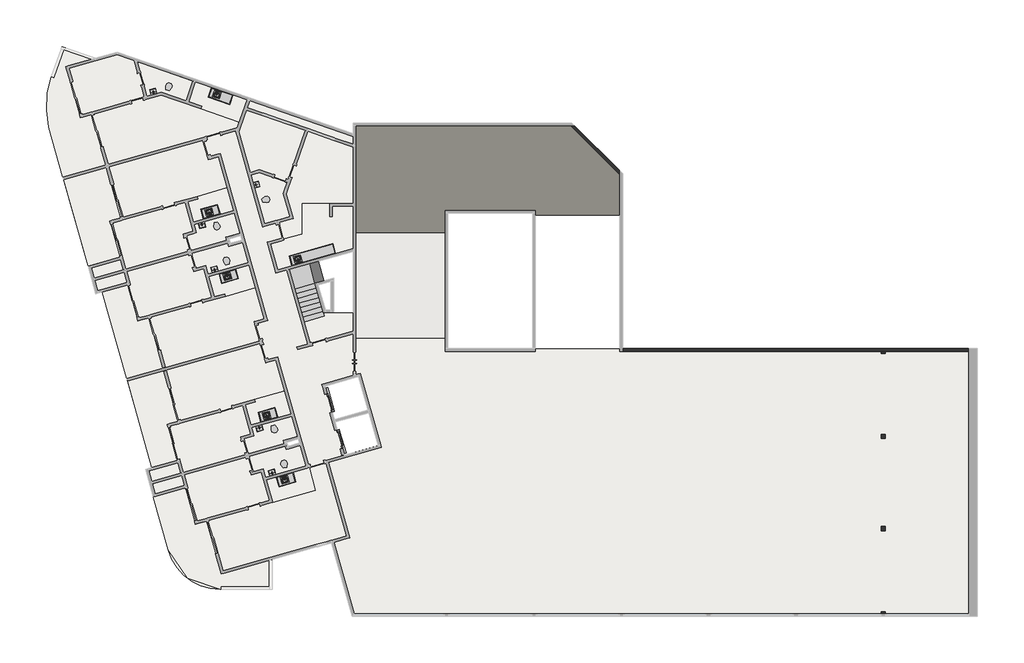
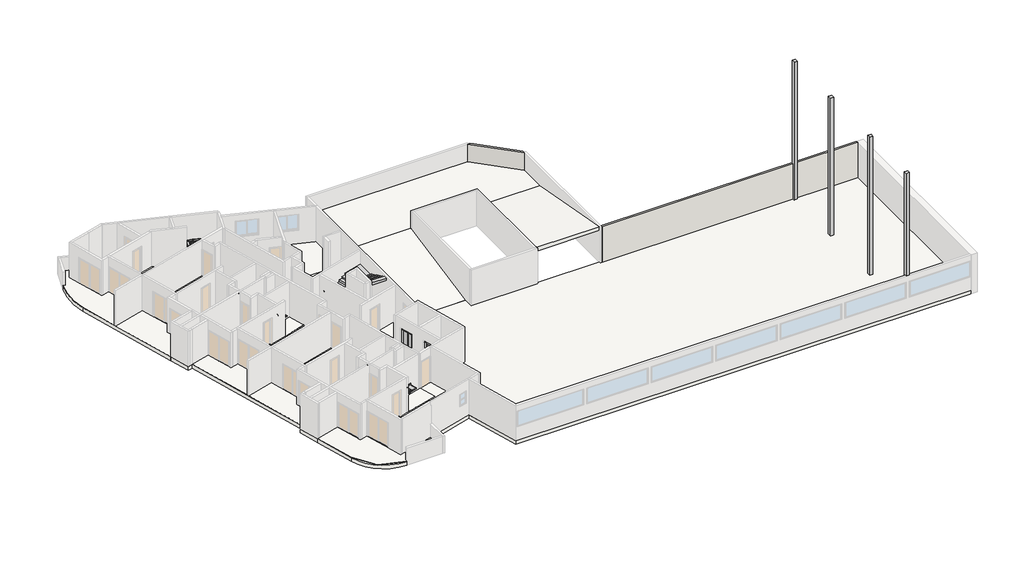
# One storey, part 4 of 4: 19 slabs, 18 flow terminals, 8 proxies, 4 columns, 2 walls, 1 stair flight.
"""IFC4 building model written with IfcOpenShell, lengths in millimetres."""

from ifc_helpers import new_model, si_unit, point, frame, frame_2d, origin, place, context, project, spatial, polyline, circle_curve, trimmed, segment, composite_curve, outline, extrude, faceted_brep, transform, mapped, element, save
from components import specialty_equipment_6c35da8b, specialty_equipment_77dfa124, rf_bancada_cozinha_rf_bancada_cozinha_340fef9f, rf_bancada_cozinha_rf_bancada_cozinha_cfb88ba1, rf_bancada_cozinha_rf_bancada_cozinha_2f873929, rf_bancada_cozinha_rf_bancada_cozinha_798ceddf, flow_terminal_cab7bae2, flow_terminal_3fb7dc42, flow_terminal_e42b9071, flow_terminal_c6e042c4, ap_01_creme_cr37_13e02e03, ap_01_creme_cr37_5ce6e54d

model = new_model("IFC4")

# Units and contexts
model_context = context("Model", 3, world=origin())
ifc_project = project(units=[si_unit("LENGTHUNIT", "METRE", prefix="MILLI")], contexts=[model_context])

# Site, building, storey
site = spatial("IfcSite", under=ifc_project)
building = spatial("IfcBuilding", under=site)
storey = spatial("IfcBuildingStorey", under=building, Name="Garagem 4", Elevation=39150.0)

# Proxies
placement = place(None, origin())
specialty_equipment_shape = specialty_equipment_6c35da8b(model_context)
element("IfcBuildingElementProxy", 1, Name="Porta do elevador : Porta do elevador", ObjectType="Porta do elevador : Porta do elevador", at=placement, inside=storey, context=model_context, shape_type="MappedRepresentation", body=[
    mapped(specialty_equipment_shape, transform((-76594.4337486, 15747.4543727, 39150.0), x_axis=(0.27176796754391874, -0.9623628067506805, 0.0), y_axis=(0.9623628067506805, 0.27176796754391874, 0.0), z_axis=(0.0, 0.0, 1.0))),
])
specialty_equipment_2_shape = specialty_equipment_77dfa124(model_context)
element("IfcBuildingElementProxy", 2, Name="Porta do elevador : Porta do elevador", ObjectType="Porta do elevador : Porta do elevador", at=placement, inside=storey, context=model_context, shape_type="MappedRepresentation", body=[
    mapped(specialty_equipment_2_shape, transform((-75942.1906265, 13437.7836365, 39150.0), x_axis=(-0.27176796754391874, 0.9623628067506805, 0.0), y_axis=(-0.9623628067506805, -0.27176796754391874, 0.0), z_axis=(0.0, 0.0, 1.0))),
])
rf_bancada_cozinha_rf_bancada_cozinha_shape = rf_bancada_cozinha_rf_bancada_cozinha_340fef9f(model_context)
element("IfcBuildingElementProxy", 3, Name="RF_Bancada Cozinha : RF_Bancada Cozinha", ObjectType="RF_Bancada Cozinha : RF_Bancada Cozinha", at=placement, inside=storey, context=model_context, shape_type="MappedRepresentation", body=[
    mapped(rf_bancada_cozinha_rf_bancada_cozinha_shape, transform((-82760.548019, 26451.5820971, 39900.0), x_axis=(-0.9623628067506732, -0.27176796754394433, 0.0), y_axis=(0.27176796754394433, -0.9623628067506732, 0.0), z_axis=(0.0, 0.0, 1.0))),
])
element("IfcBuildingElementProxy", 4, Name="RF_Bancada Cozinha : RF_Bancada Cozinha", ObjectType="RF_Bancada Cozinha : RF_Bancada Cozinha", at=placement, inside=storey, context=model_context, shape_type="MappedRepresentation", body=[
    mapped(rf_bancada_cozinha_rf_bancada_cozinha_shape, transform((-79472.1556117, 14806.9921354, 39900.0), x_axis=(-0.9623628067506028, -0.2717679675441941, 0.0), y_axis=(0.2717679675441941, -0.9623628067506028, 0.0), z_axis=(0.0, 0.0, 1.0))),
])
rf_bancada_cozinha_rf_bancada_cozinha_2_shape = rf_bancada_cozinha_rf_bancada_cozinha_cfb88ba1(model_context)
element("IfcBuildingElementProxy", 5, Name="RF_Bancada Cozinha : RF_Bancada Cozinha", ObjectType="RF_Bancada Cozinha : RF_Bancada Cozinha", at=placement, inside=storey, context=model_context, shape_type="MappedRepresentation", body=[
    mapped(rf_bancada_cozinha_rf_bancada_cozinha_2_shape, transform((-81877.3021245, 23323.9029751, 39900.0), x_axis=(-0.9623628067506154, -0.27176796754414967, 0.0), y_axis=(0.27176796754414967, -0.9623628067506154, 0.0), z_axis=(0.0, 0.0, 1.0))),
])
element("IfcBuildingElementProxy", 6, Name="RF_Bancada Cozinha : RF_Bancada Cozinha", ObjectType="RF_Bancada Cozinha : RF_Bancada Cozinha", at=placement, inside=storey, context=model_context, shape_type="MappedRepresentation", body=[
    mapped(rf_bancada_cozinha_rf_bancada_cozinha_2_shape, transform((-78588.9097172, 11679.3130134, 39900.0), x_axis=(-0.9623628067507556, -0.27176796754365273, 0.0), y_axis=(0.27176796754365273, -0.9623628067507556, 0.0), z_axis=(0.0, 0.0, 1.0))),
])
rf_bancada_cozinha_rf_bancada_cozinha_3_shape = rf_bancada_cozinha_rf_bancada_cozinha_2f873929(model_context)
element("IfcBuildingElementProxy", 7, Name="RF_Bancada Cozinha : RF_Bancada Cozinha", ObjectType="RF_Bancada Cozinha : RF_Bancada Cozinha", at=placement, inside=storey, context=model_context, shape_type="MappedRepresentation", body=[
    mapped(rf_bancada_cozinha_rf_bancada_cozinha_3_shape, transform((-82030.0326121, 33293.9830661, 39900.0), x_axis=(-0.9449109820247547, 0.32732741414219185, 0.0), y_axis=(-0.32732741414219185, -0.9449109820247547, 0.0), z_axis=(0.0, 0.0, 1.0))),
])
rf_bancada_cozinha_rf_bancada_cozinha_4_shape = rf_bancada_cozinha_rf_bancada_cozinha_798ceddf(model_context)
element("IfcBuildingElementProxy", 8, Name="RF_Bancada Cozinha : RF_Bancada Cozinha", ObjectType="RF_Bancada Cozinha : RF_Bancada Cozinha", at=placement, inside=storey, context=model_context, shape_type="MappedRepresentation", body=[
    mapped(rf_bancada_cozinha_rf_bancada_cozinha_4_shape, transform((-76157.6622331, 24197.9763092, 39900.0), x_axis=(-0.9623628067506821, -0.27176796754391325, 0.0), y_axis=(0.27176796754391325, -0.9623628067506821, 0.0), z_axis=(0.0, 0.0, 1.0))),
])

# Columns
element("IfcColumn", 9, ObjectType="M_Concrete-Rectangular-Column : 0.25m", at=placement, inside=storey, context=model_context, shape_type="SweptSolid", body=[
    extrude(outline(polyline([(-44675.8696428, 3676.0495751), (-44675.8696428, 3426.0495751), (-44925.8696428, 3426.0495751), (-44925.8696428, 3676.0495751), (-44675.8696428, 3676.0495751)])), frame((0.0, 0.0, 39150.0), z_axis=(0.0, 0.0, 1.0), x_axis=(1.0, 0.0, 0.0)), (0.0, 0.0, 1.0), 11300.0),
])
element("IfcColumn", 10, ObjectType="M_Concrete-Rectangular-Column : 0.25m", at=placement, inside=storey, context=model_context, shape_type="SweptSolid", body=[
    extrude(outline(polyline([(-44675.8696428, 18723.8506069), (-44675.8696428, 18473.8506069), (-44925.8696428, 18473.8506069), (-44925.8696428, 18723.8506069), (-44675.8696428, 18723.8506069)])), frame((0.0, 0.0, 39150.0), z_axis=(0.0, 0.0, 1.0), x_axis=(1.0, 0.0, 0.0)), (0.0, 0.0, 1.0), 11300.0),
])
element("IfcColumn", 11, ObjectType="M_Concrete-Rectangular-Column : 0.25m", at=placement, inside=storey, context=model_context, shape_type="SweptSolid", body=[
    extrude(outline(polyline([(-44675.8696428, 13852.5140353), (-44675.8696428, 13602.5140353), (-44925.8696428, 13602.5140353), (-44925.8696428, 13852.5140353), (-44675.8696428, 13852.5140353)])), frame((0.0, 0.0, 39150.0), z_axis=(0.0, 0.0, 1.0), x_axis=(1.0, 0.0, 0.0)), (0.0, 0.0, 1.0), 11300.0),
])
element("IfcColumn", 12, ObjectType="M_Concrete-Rectangular-Column : 0.25m", at=placement, inside=storey, context=model_context, shape_type="SweptSolid", body=[
    extrude(outline(polyline([(-44675.8696428, 8561.0495751), (-44675.8696428, 8311.0495751), (-44925.8696428, 8311.0495751), (-44925.8696428, 8561.0495751), (-44675.8696428, 8561.0495751)])), frame((0.0, 0.0, 39150.0), z_axis=(0.0, 0.0, 1.0), x_axis=(1.0, 0.0, 0.0)), (0.0, 0.0, 1.0), 11300.0),
])

# Flow terminals
flow_terminal_shape = flow_terminal_cab7bae2(model_context)
element("IfcFlowTerminal", 13, ObjectType="RF_Pias : Pia da Bancada", at=placement, inside=storey, context=model_context, shape_type="MappedRepresentation", body=[
    mapped(flow_terminal_shape, transform((-83380.5102831, 26570.4992214, 39002.9), x_axis=(-0.9623628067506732, -0.27176796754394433, 0.0), y_axis=(0.27176796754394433, -0.9623628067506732, 0.0), z_axis=(0.0, 0.0, 1.0))),
])
element("IfcFlowTerminal", 14, ObjectType="RF_Pias : Pia da Bancada", at=placement, inside=storey, context=model_context, shape_type="MappedRepresentation", body=[
    mapped(flow_terminal_shape, transform((-80092.1178758, 14925.9092597, 39002.9), x_axis=(-0.9623628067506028, -0.2717679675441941, 0.0), y_axis=(0.2717679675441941, -0.9623628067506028, 0.0), z_axis=(0.0, 0.0, 1.0))),
])
element("IfcFlowTerminal", 15, ObjectType="RF_Pias : Pia da Bancada", at=placement, inside=storey, context=model_context, shape_type="MappedRepresentation", body=[
    mapped(flow_terminal_shape, transform((-78306.8185143, 23885.0542694, 39002.9), x_axis=(-0.9623628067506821, -0.27176796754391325, 0.0), y_axis=(0.27176796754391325, -0.9623628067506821, 0.0), z_axis=(0.0, 0.0, 1.0))),
])
flow_terminal_2_shape = flow_terminal_3fb7dc42(model_context)
element("IfcFlowTerminal", 16, ObjectType="Deca_Cuba de Apoio Retangular_L7300 : L.7300.17_Branco Gelo GE17", at=placement, inside=storey, context=model_context, shape_type="MappedRepresentation", body=[
    mapped(flow_terminal_2_shape, transform((-83090.0822283, 23308.7374016, 39900.0), x_axis=(-0.9623628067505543, -0.2717679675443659, 0.0), y_axis=(0.2717679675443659, -0.9623628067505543, 0.0), z_axis=(0.0, 0.0, 1.0))),
])
element("IfcFlowTerminal", 17, ObjectType="Deca_Cuba de Apoio Retangular_L7300 : L.7300.17_Branco Gelo GE17", at=placement, inside=storey, context=model_context, shape_type="MappedRepresentation", body=[
    mapped(flow_terminal_2_shape, transform((-79801.689821, 11664.1474399, 39900.0), x_axis=(-0.9623628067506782, -0.2717679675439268, 0.0), y_axis=(0.2717679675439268, -0.9623628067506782, 0.0), z_axis=(0.0, 0.0, 1.0))),
])
element("IfcFlowTerminal", 18, ObjectType="Deca_Cuba de Apoio Retangular_L7300 : L.7300.17_Branco Gelo GE17", at=placement, inside=storey, context=model_context, shape_type="MappedRepresentation", body=[
    mapped(flow_terminal_2_shape, transform((-80677.0991462, 28154.8020678, 39900.0), x_axis=(-0.2717679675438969, 0.9623628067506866, 0.0), y_axis=(-0.9623628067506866, -0.2717679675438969, 0.0), z_axis=(0.0, 0.0, 1.0))),
])
element("IfcFlowTerminal", 19, ObjectType="Deca_Cuba de Apoio Retangular_L7300 : L.7300.17_Branco Gelo GE17", at=placement, inside=storey, context=model_context, shape_type="MappedRepresentation", body=[
    mapped(flow_terminal_2_shape, transform((-86597.4204814, 33488.7004496, 39900.0), x_axis=(-0.9623628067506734, -0.27176796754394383, 0.0), y_axis=(0.27176796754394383, -0.9623628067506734, 0.0), z_axis=(0.0, 0.0, 1.0))),
])
flow_terminal_3_shape = flow_terminal_e42b9071(model_context)
element("IfcFlowTerminal", 20, ObjectType="Deca_Cuba de Apoio Retangular_L7300 : L.7300.17_Branco Gelo GE17", at=placement, inside=storey, context=model_context, shape_type="MappedRepresentation", body=[
    mapped(flow_terminal_3_shape, transform((-83802.1143033, 25830.1279553, 39900.0), x_axis=(-0.9623628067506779, -0.2717679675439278, 0.0), y_axis=(0.2717679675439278, -0.9623628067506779, 0.0), z_axis=(0.0, 0.0, 1.0))),
])
element("IfcFlowTerminal", 21, ObjectType="Deca_Cuba de Apoio Retangular_L7300 : L.7300.17_Branco Gelo GE17", at=placement, inside=storey, context=model_context, shape_type="MappedRepresentation", body=[
    mapped(flow_terminal_3_shape, transform((-80513.721896, 14185.5379936, 39900.0), x_axis=(-0.962362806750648, -0.27176796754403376, 0.0), y_axis=(0.27176796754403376, -0.962362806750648, 0.0), z_axis=(0.0, 0.0, 1.0))),
])
flow_terminal_4_shape = flow_terminal_c6e042c4(model_context)
element("IfcFlowTerminal", 22, ObjectType="RF_Pias : Pia da Bancada", at=placement, inside=storey, context=model_context, shape_type="MappedRepresentation", body=[
    mapped(flow_terminal_4_shape, transform((-82343.483233, 22898.2626745, 39002.9), x_axis=(-0.9623628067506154, -0.27176796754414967, 0.0), y_axis=(0.27176796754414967, -0.9623628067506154, 0.0), z_axis=(0.0, 0.0, 1.0))),
])
element("IfcFlowTerminal", 23, ObjectType="RF_Pias : Pia da Bancada", at=placement, inside=storey, context=model_context, shape_type="MappedRepresentation", body=[
    mapped(flow_terminal_4_shape, transform((-79055.0908257, 11253.6727129, 39002.9), x_axis=(-0.9623628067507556, -0.27176796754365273, 0.0), y_axis=(0.27176796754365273, -0.9623628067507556, 0.0), z_axis=(0.0, 0.0, 1.0))),
])
element("IfcFlowTerminal", 24, ObjectType="RF_Pias : Pia da Bancada", at=placement, inside=storey, context=model_context, shape_type="MappedRepresentation", body=[
    mapped(flow_terminal_4_shape, transform((-82939.3392028, 33309.5545572, 39002.9), x_axis=(-0.9449109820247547, 0.32732741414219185, 0.0), y_axis=(-0.32732741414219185, -0.9449109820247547, 0.0), z_axis=(0.0, 0.0, 1.0))),
])
ap_01_creme_cr37_shape = ap_01_creme_cr37_13e02e03(model_context)
element("IfcFlowTerminal", 25, ObjectType="Deca_Shared_Assento_P.900 : AP.01_Creme CR37", at=placement, inside=storey, context=model_context, shape_type="MappedRepresentation", body=[
    mapped(ap_01_creme_cr37_shape, transform((-83017.5301151, 25983.4740486, 39537.8723674), x_axis=(0.9623628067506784, 0.2717679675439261, 0.0), y_axis=(0.0, 0.0, 1.0), z_axis=(0.2717679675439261, -0.9623628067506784, 0.0))),
])
element("IfcFlowTerminal", 26, ObjectType="Deca_Shared_Assento_P.900 : AP.01_Creme CR37", at=placement, inside=storey, context=model_context, shape_type="MappedRepresentation", body=[
    mapped(ap_01_creme_cr37_shape, transform((-79729.1377078, 14338.8840869, 39537.8723674), x_axis=(0.962362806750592, 0.2717679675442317, 0.0), y_axis=(0.0, 0.0, 1.0), z_axis=(0.2717679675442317, -0.962362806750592, 0.0))),
])
element("IfcFlowTerminal", 27, ObjectType="Deca_Shared_Assento_P.900 : AP.01_Creme CR37", at=placement, inside=storey, context=model_context, shape_type="MappedRepresentation", body=[
    mapped(ap_01_creme_cr37_shape, transform((-80349.5164684, 27236.3600819, 39537.8723674), x_axis=(-0.271767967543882, 0.9623628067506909, 0.0), y_axis=(0.0, 0.0, 1.0), z_axis=(0.9623628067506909, 0.271767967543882, 0.0))),
])
element("IfcFlowTerminal", 28, ObjectType="Deca_Shared_Assento_P.900 : AP.01_Creme CR37", at=placement, inside=storey, context=model_context, shape_type="MappedRepresentation", body=[
    mapped(ap_01_creme_cr37_shape, transform((-85777.8760768, 33566.4131555, 39537.8723674), x_axis=(-0.9449109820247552, 0.3273274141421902, 0.0), y_axis=(0.0, 0.0, 1.0000000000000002), z_axis=(0.3273274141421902, 0.9449109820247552, 0.0))),
])
ap_01_creme_cr37_2_shape = ap_01_creme_cr37_5ce6e54d(model_context)
element("IfcFlowTerminal", 29, ObjectType="Deca_Shared_Assento_P.900 : AP.01_Creme CR37", at=placement, inside=storey, context=model_context, shape_type="MappedRepresentation", body=[
    mapped(ap_01_creme_cr37_2_shape, transform((-82341.1813229, 23588.4422577, 39537.8723674), x_axis=(0.9623628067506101, 0.27176796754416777, 0.0), y_axis=(0.0, 0.0, -1.0), z_axis=(-0.27176796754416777, 0.9623628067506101, 0.0))),
])
element("IfcFlowTerminal", 30, ObjectType="Deca_Shared_Assento_P.900 : AP.01_Creme CR37", at=placement, inside=storey, context=model_context, shape_type="MappedRepresentation", body=[
    mapped(ap_01_creme_cr37_2_shape, transform((-79052.7889156, 11943.852296, 39537.8723674), x_axis=(0.9623628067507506, 0.2717679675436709, 0.0), y_axis=(0.0, 0.0, -1.0000000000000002), z_axis=(-0.2717679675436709, 0.9623628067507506, 0.0))),
])

# Slabs
element("IfcSlab", 31, ObjectType="TZ_Piso de Áreas Molhadas", at=placement, inside=storey, context=model_context, shape_type="SweptSolid", body=[
    extrude(outline(composite_curve([segment(polyline([(-90765.4571774, 31984.341749), (-90143.7425806, 32159.9118263), (-89328.438678, 29272.823406), (-91766.0080564, 28584.4621444), (-92573.2320087, 31442.9384962)]), True, "CONTINUOUS"), segment(trimmed(circle_curve(frame_2d((-87414.5556743, 32622.5665107)), 5291.829908), [point((-92573.2320087, 31442.9384962))], [point((-92422.0860726, 34333.7366032))], False, "CARTESIAN"), True, "CONTINUOUS"), segment(polyline([(-92422.0860726, 34333.7366032), (-92280.2794148, 34284.6132387), (-91729.7010481, 35873.9929322), (-90151.0501028, 35327.1311202), (-91594.3494784, 34919.5483093), (-90765.4571774, 31984.341749)]), True, "CONTINUOUS")], self_intersect=False)), frame((0.0, 0.0, 39150.0), z_axis=(0.0, 0.0, 1.0), x_axis=(1.0, 0.0, 0.0)), (0.0, 0.0, 1.0), 20.0),
])
element("IfcSlab", 32, ObjectType="TZ_Piso de Áreas Molhadas", at=placement, inside=storey, context=model_context, shape_type="SweptSolid", body=[
    extrude(outline(polyline([(-88472.3695802, 26241.3805647), (-89094.084177, 26065.8104874), (-88509.7830468, 23996.7304529), (-90325.6378284, 23483.9392686), (-91725.2428613, 28440.1077234), (-89287.6734828, 29128.468985), (-88472.3695802, 26241.3805647)])), frame((0.0, 0.0, 39150.0), z_axis=(0.0, 0.0, 1.0), x_axis=(1.0, 0.0, 0.0)), (0.0, 0.0, 1.0), 20.0),
])
element("IfcSlab", 33, ObjectType="TZ_Piso de Áreas Molhadas", at=placement, inside=storey, context=model_context, shape_type="SweptSolid", body=[
    extrude(outline(polyline([(-86855.3501733, 20515.3218645), (-86040.0462707, 17628.2334443), (-88109.1263052, 17043.9323141), (-89508.731338, 22000.1007688), (-88061.3659003, 22408.8318218), (-87477.0647701, 20339.7517872), (-86855.3501733, 20515.3218645)])), frame((0.0, 0.0, 39150.0), z_axis=(0.0, 0.0, 1.0), x_axis=(1.0, 0.0, 0.0)), (0.0, 0.0, 1.0), 20.0),
])
element("IfcSlab", 34, ObjectType="TZ_Piso de Áreas Molhadas", at=placement, inside=storey, context=model_context, shape_type="SweptSolid", body=[
    extrude(outline(polyline([(-78926.5637691, 28284.9851582), (-79146.9727346, 27648.7205404), (-78771.1333302, 26317.8283554), (-80214.6775403, 25910.176404), (-81004.3851492, 28706.6252933), (-80530.2499593, 28840.5194505), (-78926.5637691, 28284.9851582)])), frame((0.0, 0.0, 39150.0), z_axis=(0.0, 0.0, 1.0), x_axis=(1.0, 0.0, 0.0)), (0.0, 0.0, 1.0), 20.0),
])
element("IfcSlab", 35, ObjectType="TZ_Piso de Áreas Molhadas", at=placement, inside=storey, context=model_context, shape_type="SweptSolid", body=[
    extrude(outline(polyline([(-78070.9150345, 27060.8243598), (-76493.6479314, 27060.8243598), (-76493.6479314, 26310.8243598), (-76343.6479314, 26310.8243598), (-76343.6479314, 26910.8243598), (-75147.8282189, 26910.8243598), (-75147.8282189, 24483.4871675), (-79467.3156296, 23263.6786855), (-79888.5559793, 24755.3410359), (-79127.7601479, 24970.1871785), (-79141.3485461, 25018.3053183), (-78070.9150345, 25320.5920836), (-78070.9150345, 27060.8243598)])), frame((0.0, 0.0, 39150.0), z_axis=(0.0, 0.0, 1.0), x_axis=(1.0, 0.0, 0.0)), (0.0, 0.0, 1.0), 20.0),
])
element("IfcSlab", 36, ObjectType="TZ_Piso de Áreas Molhadas", at=placement, inside=storey, context=model_context, shape_type="SweptSolid", body=[
    extrude(outline(polyline([(-84719.4810559, 32955.6762822), (-86137.8721095, 33447.0223292), (-86956.7711455, 33215.7680402), (-87515.4733556, 35194.1992432), (-84326.6881589, 34089.5694606), (-84719.4810559, 32955.6762822)])), frame((0.0, 0.0, 39150.0), z_axis=(0.0, 0.0, 1.0), x_axis=(1.0, 0.0, 0.0)), (0.0, 0.0, 1.0), 20.0),
])
element("IfcSlab", 37, ObjectType="TZ_Piso de Áreas Molhadas", at=placement, inside=storey, context=model_context, shape_type="SweptSolid", body=[
    extrude(outline(polyline([(-84577.7444086, 32906.57717), (-84184.9515116, 34040.4703485), (-81226.8582774, 33015.7547641), (-81668.7502865, 31740.1249383), (-83870.9147351, 32502.9785914), (-83821.815623, 32644.7152387), (-84577.7444086, 32906.57717)])), frame((0.0, 0.0, 39150.0), z_axis=(0.0, 0.0, 1.0), x_axis=(1.0, 0.0, 0.0)), (0.0, 0.0, 1.0), 20.0),
])
element("IfcSlab", 38, ObjectType="TZ_Piso de Áreas Molhadas", at=placement, inside=storey, context=model_context, shape_type="SweptSolid", body=[
    extrude(outline(polyline([(-81949.8925784, 26524.6420501), (-81623.7710174, 25369.806682), (-82432.1557751, 25141.5215893), (-82377.8021816, 24949.0490279), (-84456.5058441, 24362.030218), (-84701.0970149, 25228.1567441), (-84123.6793309, 25391.2175246), (-84259.5633146, 25872.398928), (-81949.8925784, 26524.6420501)])), frame((0.0, 0.0, 39150.0), z_axis=(0.0, 0.0, 1.0), x_axis=(1.0, 0.0, 0.0)), (0.0, 0.0, 1.0), 20.0),
])
element("IfcSlab", 39, ObjectType="TZ_Piso de Áreas Molhadas", at=placement, inside=storey, context=model_context, shape_type="SweptSolid", body=[
    extrude(outline(polyline([(-84089.7975819, 27479.0039186), (-82357.5445298, 27968.1862602), (-81990.6577736, 26668.9964711), (-84300.3285098, 26016.753349), (-84626.4500708, 27171.5887171), (-84049.0323868, 27334.6494976), (-84089.7975819, 27479.0039186)])), frame((0.0, 0.0, 39150.0), z_axis=(0.0, 0.0, 1.0), x_axis=(1.0, 0.0, 0.0)), (0.0, 0.0, 1.0), 20.0),
])
element("IfcSlab", 40, ObjectType="TZ_Piso de Áreas Molhadas", at=placement, inside=storey, context=model_context, shape_type="SweptSolid", body=[
    extrude(outline(polyline([(-84171.1494782, 23351.5492709), (-84415.740649, 24217.675797), (-82337.0369864, 24804.6946069), (-82282.6833929, 24612.2220455), (-81474.2986352, 24840.5071383), (-81148.1770742, 23685.6717702), (-83457.8478104, 23033.4286481), (-83593.7317942, 23514.6100514), (-84171.1494782, 23351.5492709)])), frame((0.0, 0.0, 39150.0), z_axis=(0.0, 0.0, 1.0), x_axis=(1.0, 0.0, 0.0)), (0.0, 0.0, 1.0), 20.0),
])
element("IfcSlab", 41, ObjectType="TZ_Piso de Áreas Molhadas", at=placement, inside=storey, context=model_context, shape_type="SweptSolid", body=[
    extrude(outline(composite_curve([segment(polyline([(-79945.4990038, 5119.4122055), (-82713.5540687, 5119.4122055), (-82713.5540687, 4969.4122055), (-82751.3896972, 4969.4122055)]), True, "CONTINUOUS"), segment(trimmed(circle_curve(frame_2d((-82751.3896972, 8069.4122055)), 3100.0), [point((-82751.3896972, 4969.4122055))], [point((-85734.7143981, 7226.9315061))], False, "CARTESIAN"), True, "CONTINUOUS"), segment(polyline([(-85734.7143981, 7226.9315061), (-86588.8282733, 10251.4506708), (-84772.9735093, 10764.2419177), (-84188.6722855, 8695.1618243), (-83566.957766, 8870.7319029), (-82710.8885369, 5839.2889958), (-79945.4990038, 6620.2256515), (-79945.4990038, 5119.4122055)]), True, "CONTINUOUS")], self_intersect=False)), frame((0.0, 0.0, 39150.0), z_axis=(0.0, 0.0, 1.0), x_axis=(1.0, 0.0, 0.0)), (0.0, 0.0, 1.0), 20.0),
])
element("IfcSlab", 42, ObjectType="TZ_Piso de Áreas Molhadas", at=placement, inside=storey, context=model_context, shape_type="SweptSolid", body=[
    extrude(outline(polyline([(-78185.906228, 13195.9171766), (-77859.7846669, 12041.0818085), (-80169.4554031, 11388.8386864), (-80305.3393869, 11870.0200898), (-80882.7570709, 11706.9593092), (-81127.3482417, 12573.0858353), (-79048.6445791, 13160.1046452), (-78994.2909856, 12967.6320839), (-78185.906228, 13195.9171766)])), frame((0.0, 0.0, 39150.0), z_axis=(0.0, 0.0, 1.0), x_axis=(1.0, 0.0, 0.0)), (0.0, 0.0, 1.0), 20.0),
])
element("IfcSlab", 43, ObjectType="TZ_Piso de Áreas Molhadas", at=placement, inside=storey, context=model_context, shape_type="SweptSolid", body=[
    extrude(outline(polyline([(-77307.7782946, 10638.3027935), (-79761.8034518, 9945.2944763), (-80128.690208, 11244.4842654), (-77674.6650508, 11937.4925826), (-77307.7782946, 10638.3027935)])), frame((0.0, 0.0, 39150.0), z_axis=(0.0, 0.0, 1.0), x_axis=(1.0, 0.0, 0.0)), (0.0, 0.0, 1.0), 20.0),
])
element("IfcSlab", 44, ObjectType="TZ_Piso de Áreas Molhadas", at=placement, inside=storey, context=model_context, shape_type="SweptSolid", body=[
    extrude(outline(polyline([(-81107.9410005, 23543.1910314), (-80740.5251229, 22242.1275601), (-82472.778175, 21752.9452185), (-82513.5433702, 21897.2996395), (-83090.9610542, 21734.238859), (-83418.0192411, 22888.8089065), (-81107.9410005, 23543.1910314)])), frame((0.0, 0.0, 39150.0), z_axis=(0.0, 0.0, 1.0), x_axis=(1.0, 0.0, 0.0)), (0.0, 0.0, 1.0), 20.0),
])
element("IfcSlab", 45, ObjectType="TZ_Piso de Áreas Molhadas", at=placement, inside=storey, context=model_context, shape_type="SweptSolid", body=[
    extrude(outline(polyline([(-85183.9771729, 14596.790603), (-85805.6917697, 14421.2205257), (-85221.3906395, 12352.1404912), (-86668.7560772, 11943.4094383), (-88068.36111, 16899.5778931), (-85999.2810755, 17483.8790233), (-85183.9771729, 14596.790603)])), frame((0.0, 0.0, 39150.0), z_axis=(0.0, 0.0, 1.0), x_axis=(1.0, 0.0, 0.0)), (0.0, 0.0, 1.0), 20.0),
])
element("IfcSlab", 46, ObjectType="TZ_Piso de Áreas Molhadas", at=placement, inside=storey, context=model_context, shape_type="SweptSolid", body=[
    extrude(outline(polyline([(-81412.7046076, 13583.5667824), (-80835.2869236, 13746.6275629), (-80971.1709074, 14227.8089663), (-78661.5001712, 14880.0520884), (-78335.3786101, 13725.2167203), (-79143.7633678, 13496.9316276), (-79089.4097743, 13304.4590662), (-81168.1134368, 12717.4402563), (-81412.7046076, 13583.5667824)])), frame((0.0, 0.0, 39150.0), z_axis=(0.0, 0.0, 1.0), x_axis=(1.0, 0.0, 0.0)), (0.0, 0.0, 1.0), 20.0),
])
element("IfcSlab", 47, ObjectType="TZ_Piso de Áreas Molhadas", at=placement, inside=storey, context=model_context, shape_type="SweptSolid", body=[
    extrude(outline(polyline([(-78701.7362448, 15022.5328272), (-81012.8731576, 14371.8995868), (-81338.0576635, 15526.9987554), (-80760.6399795, 15690.059536), (-80801.4051746, 15834.413957), (-79069.1521225, 16323.5962985), (-78701.7362448, 15022.5328272)])), frame((0.0, 0.0, 39150.0), z_axis=(0.0, 0.0, 1.0), x_axis=(1.0, 0.0, 0.0)), (0.0, 0.0, 1.0), 20.0),
])
element("IfcSlab", 48, ObjectType="TZ_Laje 30cm", at=placement, inside=storey, context=model_context, shape_type="SweptSolid", body=[
    extrude(outline(composite_curve([segment(polyline([(-82713.5540687, 4969.4122055), (-82751.3896972, 4969.4122055)]), True, "CONTINUOUS"), segment(trimmed(circle_curve(frame_2d((-82751.3896972, 8069.4122055)), 3100.0), [point((-82751.3896972, 4969.4122055))], [point((-85734.7143981, 7226.9315061))], False, "CARTESIAN"), True, "CONTINUOUS"), segment(polyline([(-85734.7143981, 7226.9315061), (-86588.8282747, 10251.4506758), (-86574.3928326, 10255.5271953), (-87018.7334595, 11828.9903844), (-86664.6795577, 11928.9739962), (-89512.8078575, 22014.5362109), (-89866.8617594, 21914.5525991), (-90311.2023863, 23488.0157882), (-90325.6378284, 23483.9392686), (-92573.2320087, 31442.9384962)]), True, "CONTINUOUS"), segment(trimmed(circle_curve(frame_2d((-87414.5556743, 32622.5665107)), 5291.829908), [point((-92573.2320087, 31442.9384962))], [point((-92426.4466323, 34320.9224218))], False, "CARTESIAN"), True, "CONTINUOUS"), segment(polyline([(-92426.4466323, 34320.9224218), (-92422.0160621, 34333.7123509), (-92403.1178425, 34327.1658026), (-91809.986912, 36039.3839237), (-89899.2062586, 35377.468778), (-88658.6666899, 35727.7929124), (-75015.5036183, 31001.6532295), (-75015.5036183, 19352.5140353), (-69748.6137209, 19352.5140353), (-69748.6137209, 18732.5140353), (-39429.7628043, 18732.5140353), (-39429.7628043, 3431.0495751), (-75180.5270822, 3431.0495751), (-76371.9880656, 7650.1551103), (-79815.4990038, 6677.7193903), (-79815.4990038, 4989.4122055), (-82713.5540687, 4989.4122055), (-82713.5540687, 4969.4122055)]), True, "CONTINUOUS")], self_intersect=False), holes=[polyline([(-81583.0058223, 25225.452261), (-82247.0361589, 25037.9323634), (-82179.094167, 24797.3416617), (-81515.0638304, 24984.8615593), (-81583.0058223, 25225.452261)]), polyline([(-78294.613415, 13580.8622993), (-78958.6437516, 13393.3424017), (-78890.7017597, 13152.7517), (-78226.6714231, 13340.2715976), (-78294.613415, 13580.8622993)]), polyline([(-74840.4856705, 17153.3066079), (-76760.3994699, 16611.1295126), (-76221.8794944, 14704.1660107), (-75646.150803, 12665.442005), (-73726.2370035, 13207.6191002), (-74270.7319215, 15135.7405865), (-74840.4856705, 17153.3066079)]), polyline([(-77952.9130698, 20291.1915783), (-76801.2963825, 20616.4041949), (-76858.5413412, 20819.1154254), (-75147.8282189, 20819.1154254), (-75147.8282189, 24343.0530162), (-78807.9060206, 23309.4595541), (-77952.9130698, 20291.1915783)])]), frame((0.0, 0.0, 38850.0), z_axis=(0.0, 0.0, 1.0), x_axis=(1.0, 0.0, 0.0)), (0.0, 0.0, 1.0), 300.0),
])
element("IfcSlab", 49, ObjectType="TZ_Rampa", at=placement, inside=storey, context=model_context, shape_type="Brep", body=[
    faceted_brep([(-59878.6137209, 28729.2690021, 40300.0), (-59878.6137209, 28729.2690021, 40600.0), (-59878.6137209, 26673.5266097, 40600.0), (-59878.6137209, 18732.5140353, 42050.0), (-59878.6137209, 18732.5140353, 41750.0), (-59878.6137209, 26673.5266097, 40300.0), (-64728.6137209, 18732.5140353, 42050.0), (-64728.6137209, 18732.5140353, 41750.0), (-64728.6137209, 26673.5266097, 40600.0), (-64728.6137209, 26673.5266097, 40300.0), (-69878.6137209, 26673.5266097, 40600.0), (-69878.6137209, 26673.5266097, 40300.0), (-69878.6137209, 19352.5140353, 39150.0), (-69878.6137209, 19352.5140353, 38850.0), (-74997.8282189, 19352.5140353, 39150.0), (-74997.8282189, 19352.5140353, 38850.0), (-74997.8282189, 26673.5266097, 40600.0), (-74997.8282189, 31523.8506069, 40600.0), (-74997.8282189, 31523.8506069, 40300.0), (-74997.8282189, 26673.5266097, 40300.0), (-62701.4234226, 31523.8506069, 40600.0), (-62701.4234226, 31523.8506069, 40300.0)], [[[0, 1, 2, 3, 4, 5]], [[4, 3, 6, 7]], [[7, 6, 8, 9]], [[9, 8, 10, 11]], [[11, 10, 12, 13]], [[13, 12, 14, 15]], [[15, 14, 16, 17, 18, 19]], [[18, 17, 20, 21]], [[21, 20, 1, 0]], [[6, 3, 2, 8]], [[7, 9, 5, 4]], [[1, 20, 17, 16, 10, 8, 2]], [[0, 5, 9, 11, 19, 18, 21]], [[14, 12, 10, 16]], [[15, 19, 11, 13]]]),
])

# Stair flight
element("IfcStairFlight", 50, ObjectType="Profundidade de 150mm", at=placement, inside=storey, context=model_context, shape_type="Brep", body=[
    faceted_brep([(-78029.0944782, 20560.1246789, 39288.0952381), (-77952.7808761, 20290.7249124, 39288.0952381), (-76802.2714069, 20616.6328483, 39288.0952381), (-76878.3664628, 20886.0945229, 39288.0952381), (-78029.0944782, 20560.1246789, 39150.0), (-77952.7808761, 20290.7249124, 39150.0), (-76802.2714069, 20616.6328483, 39150.0), (-76878.3664628, 20886.0945229, 39150.0), (-78105.4080802, 20829.5244453, 39426.1904762), (-78029.0944782, 20560.1246789, 39426.1904762), (-76878.3664628, 20886.0945229, 39426.1904762), (-76954.4615188, 21155.5561975, 39426.1904762), (-78105.4080802, 20829.5244453, 39258.939228), (-78045.2065482, 20617.0029783, 39150.0), (-76894.4323913, 20942.985893, 39150.0), (-76954.4615188, 21155.5561975, 39258.939228), (-78181.7216823, 21098.9242117, 39564.2857143), (-78105.4080802, 20829.5244453, 39564.2857143), (-76954.4615188, 21155.5561975, 39564.2857143), (-77030.5565747, 21425.017872, 39564.2857143), (-78181.7216823, 21098.9242117, 39397.0344661), (-77030.5565747, 21425.017872, 39397.0344661), (-78258.0352843, 21368.3239781, 39702.3809524), (-78181.7216823, 21098.9242117, 39702.3809524), (-77030.5565747, 21425.017872, 39702.3809524), (-77106.6516307, 21694.4795466, 39702.3809524), (-78258.0352843, 21368.3239781, 39535.1297042), (-77106.6516307, 21694.4795466, 39535.1297042), (-78334.3488864, 21637.7237445, 39840.4761905), (-78258.0352843, 21368.3239781, 39840.4761905), (-77106.6516307, 21694.4795466, 39840.4761905), (-77182.7466866, 21963.9412211, 39840.4761905), (-78334.3488864, 21637.7237445, 39673.2249423), (-77182.7466866, 21963.9412211, 39673.2249423), (-78410.6624885, 21907.1235109, 39978.5714286), (-78334.3488864, 21637.7237445, 39978.5714286), (-77182.7466866, 21963.9412211, 39978.5714286), (-77258.8417426, 22233.4028957, 39978.5714286), (-78410.6624885, 21907.1235109, 39811.3201804), (-77258.8417426, 22233.4028957, 39811.3201804), (-78486.9760905, 22176.5232773, 40116.6666667), (-78410.6624885, 21907.1235109, 40116.6666667), (-77258.8417426, 22233.4028957, 40116.6666667), (-77334.9367985, 22502.8645702, 40116.6666667), (-78486.9760905, 22176.5232773, 39949.4154185), (-77334.9367985, 22502.8645702, 39949.4154185), (-77650.6473278, 23620.8332322, 40254.7619048), (-78803.8582924, 23295.1703972, 40254.7619048), (-78572.8230038, 22479.5772253, 40254.7619048), (-78486.9760905, 22176.5232773, 40254.7619048), (-77334.9367985, 22502.8645702, 40254.7619048), (-77337.6544782, 22512.4881983, 40254.7619048), (-77650.6473278, 23620.8332322, 40104.7619048), (-78803.8582924, 23295.1703972, 40104.7619048), (-78572.8230038, 22479.5772253, 40104.7619048), (-77420.5378643, 22805.9881601, 40104.7619048), (-77337.6544782, 22512.4881983, 40104.7619048), (-77650.6473278, 23620.8332322, 40392.8571429), (-77337.6544782, 22512.4881983, 40392.8571429), (-77303.5536842, 22522.118146, 40392.8571429), (-77083.6709973, 22584.2122653, 40392.8571429), (-77396.6638468, 23692.5572992, 40392.8571429), (-77616.5465338, 23630.4631799, 40392.8571429), (-77396.6638468, 23692.5572992, 40219.0904432), (-77616.5465338, 23630.4631799, 40104.7619048), (-77303.5536842, 22522.118146, 40104.7619048), (-77083.6709973, 22584.2122653, 40219.0904432), (-77127.202261, 23768.6523301, 40530.952381), (-77396.6638468, 23692.5572992, 40530.952381), (-77083.6709973, 22584.2122653, 40530.952381), (-76814.2094114, 22660.3072962, 40530.952381), (-77127.202261, 23768.6523301, 40359.1976509), (-76814.2094114, 22660.3072962, 40359.1976509), (-76857.7406751, 23844.747361, 40669.047619), (-77127.202261, 23768.6523301, 40669.047619), (-76814.2094114, 22660.3072962, 40669.047619), (-76544.7478255, 22736.4023271, 40669.047619), (-76857.7406751, 23844.747361, 40499.3048586), (-76544.7478255, 22736.4023271, 40499.3048586), (-76588.2790892, 23920.842392, 40807.1428571), (-76857.7406751, 23844.747361, 40807.1428571), (-76544.7478255, 22736.4023271, 40807.1428571), (-76275.2862396, 22812.497358, 40807.1428571), (-76588.2790892, 23920.842392, 40639.4120663), (-75975.593386, 22897.1295956, 40795.2380952), (-76275.2862396, 22812.497358, 40795.2380952), (-75147.8282189, 22779.1154254, 40945.2380952), (-75147.8282189, 24327.6207947, 40945.2380952), (-76288.5862355, 24005.4746296, 40945.2380952), (-76588.2790892, 23920.842392, 40945.2380952), (-76275.2862396, 22812.497358, 40945.2380952), (-76275.2862396, 22779.1154254, 40945.2380952), (-75147.8282189, 22779.1154254, 40795.2380952), (-75147.8282189, 24327.6207947, 40795.2380952), (-76288.5862355, 24005.4746296, 40795.2380952), (-76275.2862396, 22779.1154254, 40795.2380952), (-75147.8282189, 22779.1154254, 41083.3333333), (-76275.2862396, 22779.1154254, 41083.3333333), (-76275.2862396, 22744.1370326, 41083.3333333), (-76275.2862396, 22499.1154254, 41083.3333333), (-75147.8282189, 22499.1154254, 41083.3333333), (-75147.8282189, 22744.1370326, 41083.3333333), (-75147.8282189, 22499.1154254, 40916.0820852), (-75147.8282189, 22744.1370326, 40795.2380952), (-76275.2862396, 22744.1370326, 40795.2380952), (-76275.2862396, 22499.1154254, 40916.0820852), (-75147.8282189, 22219.1154254, 41221.4285714), (-75147.8282189, 22499.1154254, 41221.4285714), (-76275.2862396, 22499.1154254, 41221.4285714), (-76275.2862396, 22219.1154254, 41221.4285714), (-75147.8282189, 22219.1154254, 41054.1773233), (-76275.2862396, 22219.1154254, 41054.1773233), (-75147.8282189, 21939.1154254, 41359.5238095), (-75147.8282189, 22219.1154254, 41359.5238095), (-76275.2862396, 22219.1154254, 41359.5238095), (-76275.2862396, 21939.1154254, 41359.5238095), (-75147.8282189, 21939.1154254, 41192.2725614), (-76275.2862396, 21939.1154254, 41192.2725614), (-75147.8282189, 21659.1154254, 41497.6190476), (-75147.8282189, 21939.1154254, 41497.6190476), (-76275.2862396, 21939.1154254, 41497.6190476), (-76275.2862396, 21659.1154254, 41497.6190476), (-75147.8282189, 21659.1154254, 41330.3677995), (-76275.2862396, 21659.1154254, 41330.3677995), (-75147.8282189, 21379.1154254, 41635.7142857), (-75147.8282189, 21659.1154254, 41635.7142857), (-76275.2862396, 21659.1154254, 41635.7142857), (-76275.2862396, 21379.1154254, 41635.7142857), (-75147.8282189, 21379.1154254, 41468.4630376), (-76275.2862396, 21379.1154254, 41468.4630376), (-75147.8282189, 21099.1154254, 41773.8095238), (-75147.8282189, 21379.1154254, 41773.8095238), (-76275.2862396, 21379.1154254, 41773.8095238), (-76275.2862396, 21099.1154254, 41773.8095238), (-75147.8282189, 21099.1154254, 41606.5582757), (-76275.2862396, 21099.1154254, 41606.5582757), (-75147.8282189, 20819.1154254, 41911.9047619), (-75147.8282189, 21099.1154254, 41911.9047619), (-76275.2862396, 21099.1154254, 41911.9047619), (-76275.2862396, 20819.1154254, 41911.9047619), (-75147.8282189, 20819.1154254, 41744.6535138), (-76275.2862396, 20819.1154254, 41744.6535138), (-76275.2862396, 23958.3777566, 40795.2380952)], [[[0, 1, 2, 3]], [[1, 0, 4, 5]], [[2, 1, 5, 6]], [[3, 2, 6, 7]], [[8, 9, 10, 11]], [[4, 0, 9, 8, 12, 13]], [[0, 3, 10, 9]], [[3, 7, 14, 15, 11, 10]], [[16, 17, 18, 19]], [[17, 16, 20, 12, 8]], [[8, 11, 18, 17]], [[19, 18, 11, 15, 21]], [[22, 23, 24, 25]], [[23, 22, 26, 20, 16]], [[16, 19, 24, 23]], [[25, 24, 19, 21, 27]], [[28, 29, 30, 31]], [[29, 28, 32, 26, 22]], [[22, 25, 30, 29]], [[31, 30, 25, 27, 33]], [[34, 35, 36, 37]], [[35, 34, 38, 32, 28]], [[28, 31, 36, 35]], [[37, 36, 31, 33, 39]], [[40, 41, 42, 43]], [[41, 40, 44, 38, 34]], [[34, 37, 42, 41]], [[43, 42, 37, 39, 45]], [[46, 47, 48, 49, 50, 51]], [[47, 46, 52, 53]], [[40, 49, 48, 47, 53, 54, 44]], [[40, 43, 50, 49]], [[51, 50, 43, 45, 55, 56]], [[57, 58, 59, 60, 61, 62]], [[46, 57, 62, 61, 63, 64, 52]], [[46, 51, 58, 57]], [[58, 51, 56, 65, 66, 60, 59]], [[67, 68, 69, 70]], [[68, 67, 71, 63, 61]], [[61, 60, 69, 68]], [[70, 69, 60, 66, 72]], [[73, 74, 75, 76]], [[74, 73, 77, 71, 67]], [[67, 70, 75, 74]], [[76, 75, 70, 72, 78]], [[79, 80, 81, 82]], [[80, 79, 83, 77, 73]], [[73, 76, 81, 80]], [[82, 81, 76, 78, 84, 85]], [[86, 87, 88, 89, 90, 91]], [[87, 86, 92, 93]], [[79, 89, 88, 87, 93, 94, 83]], [[79, 82, 90, 89]], [[91, 90, 82, 85, 95]], [[96, 97, 98, 99, 100, 101]], [[86, 96, 101, 100, 102, 103, 92]], [[86, 91, 97, 96]], [[97, 91, 95, 104, 105, 99, 98]], [[106, 107, 108, 109]], [[107, 106, 110, 102, 100]], [[100, 99, 108, 107]], [[109, 108, 99, 105, 111]], [[112, 113, 114, 115]], [[113, 112, 116, 110, 106]], [[106, 109, 114, 113]], [[115, 114, 109, 111, 117]], [[118, 119, 120, 121]], [[119, 118, 122, 116, 112]], [[112, 115, 120, 119]], [[121, 120, 115, 117, 123]], [[124, 125, 126, 127]], [[125, 124, 128, 122, 118]], [[118, 121, 126, 125]], [[127, 126, 121, 123, 129]], [[130, 131, 132, 133]], [[131, 130, 134, 128, 124]], [[124, 127, 132, 131]], [[133, 132, 127, 129, 135]], [[136, 137, 138, 139]], [[137, 136, 140, 134, 130]], [[130, 133, 138, 137]], [[139, 138, 133, 135, 141]], [[136, 139, 141, 140]], [[5, 4, 13, 14, 7, 6]], [[54, 55, 45, 39, 33, 27, 21, 15, 14, 13, 12, 20, 26, 32, 38, 44]], [[55, 54, 53, 52, 64, 65, 56]], [[65, 64, 63, 71, 77, 83, 94, 142, 84, 78, 72, 66]], [[142, 94, 93, 92, 103, 104, 95, 85, 84]], [[104, 103, 102, 110, 116, 122, 128, 134, 140, 141, 135, 129, 123, 117, 111, 105]]]),
])

# Walls
element("IfcWall", 51, ObjectType="Básica .15 - Externa", at=placement, inside=storey, context=model_context, shape_type="SweptSolid", body=[
    extrude(outline(polyline([(-59878.6137209, 28729.2690021), (-62701.4234226, 31523.8506069), (-62488.2173225, 31523.8506069), (-59878.6137209, 28940.3430413), (-59878.6137209, 28729.2690021)])), frame((0.0, 0.0, 39150.0), z_axis=(0.0, 0.0, 1.0), x_axis=(1.0, 0.0, 0.0)), (0.0, 0.0, 1.0), 2900.0),
])
element("IfcWall", 52, ObjectType="Básica .15 - Externa", at=placement, inside=storey, context=model_context, shape_type="SweptSolid", body=[
    extrude(outline(polyline([(-59728.6137209, 18752.5140353), (-39909.7628043, 18752.5140353), (-39909.7628043, 18602.5140353), (-59728.6137209, 18602.5140353), (-59728.6137209, 18752.5140353)])), frame((0.0, 0.0, 39150.0), z_axis=(0.0, 0.0, 1.0), x_axis=(1.0, 0.0, 0.0)), (0.0, 0.0, 1.0), 2900.0),
])

save(model, "model.ifc")
